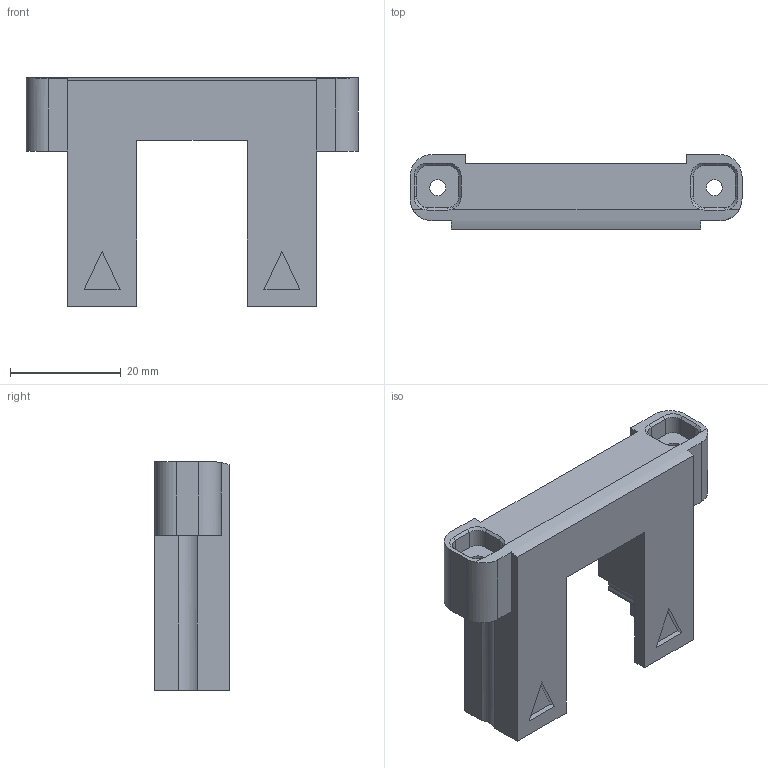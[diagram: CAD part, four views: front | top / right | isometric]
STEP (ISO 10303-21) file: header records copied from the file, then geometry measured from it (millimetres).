
FILE_DESCRIPTION(/* description */ (''),/* implementation_level */ '2;1');
FILE_NAME(/* name */ 'Bridge A.stp',/* time_stamp */ '2025-11-21T05:33:19+09:00',/* author */ (''),/* organization */ (''),/* preprocessor_version */ 'ST-DEVELOPER v11',/* originating_system */ 'SIEMENS PLM Software NX 7.5',/* authorisation */ '');
FILE_SCHEMA (('CONFIG_CONTROL_DESIGN'));
Length unit declared in the file: millimetre
Products named in the file (1): gyunCC550sub
Bounding box: 60 x 13.5 x 41.35 mm (x, y, z)
Volume: 14510.9 mm3; surface area: 6728.6 mm2
Topology: 1 solids, 1 shells, 91 faces, 238 edges, 153 vertices
Faces by surface type: plane 56, cylinder 23, cone 8, bspline 4
Full cylindrical faces by diameter (mm): 2.9 x4, 6 x2
Entity records: 2839 total; most frequent: CARTESIAN_POINT 560, ORIENTED_EDGE 454, DIRECTION 443, EDGE_CURVE 227, LINE 153, VECTOR 153, VERTEX_POINT 148, AXIS2_PLACEMENT_3D 145
